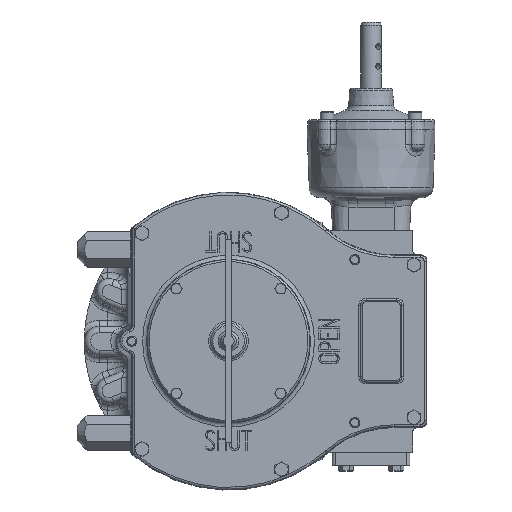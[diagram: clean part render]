
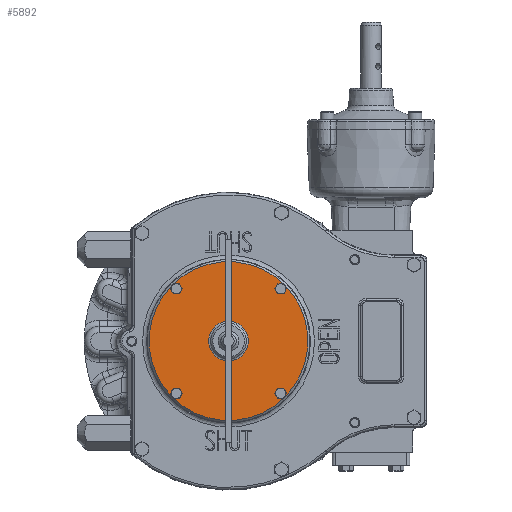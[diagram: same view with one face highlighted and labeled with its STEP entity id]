
A CAD part, top view. The second image highlights one B-rep face of the part: STEP entity #5892.
In plain terms, the highlighted planar face has unit normal (0, 0, 1).
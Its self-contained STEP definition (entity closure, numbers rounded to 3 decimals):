
#5892 = ADVANCED_FACE( '', ( #12998, #12999, #13000, #13001, #13002, #13003 ), #13004, .F. );
#12998 = FACE_BOUND( '', #42271, .T. );
#12999 = FACE_BOUND( '', #42272, .T. );
#13000 = FACE_BOUND( '', #42273, .T. );
#13001 = FACE_BOUND( '', #42274, .T. );
#13002 = FACE_BOUND( '', #42275, .T. );
#13003 = FACE_OUTER_BOUND( '', #42276, .T. );
#13004 = PLANE( '', #42277 );
#42271 = EDGE_LOOP( '', ( #68568 ) );
#42272 = EDGE_LOOP( '', ( #68569 ) );
#42273 = EDGE_LOOP( '', ( #68570 ) );
#42274 = EDGE_LOOP( '', ( #68571 ) );
#42275 = EDGE_LOOP( '', ( #68572 ) );
#42276 = EDGE_LOOP( '', ( #68573 ) );
#42277 = AXIS2_PLACEMENT_3D( '', #68574, #68575, #68576 );
#68568 = ORIENTED_EDGE( '', *, *, #81276, .T. );
#68569 = ORIENTED_EDGE( '', *, *, #83213, .T. );
#68570 = ORIENTED_EDGE( '', *, *, #83227, .T. );
#68571 = ORIENTED_EDGE( '', *, *, #83228, .T. );
#68572 = ORIENTED_EDGE( '', *, *, #83229, .T. );
#68573 = ORIENTED_EDGE( '', *, *, #79880, .T. );
#68574 = CARTESIAN_POINT( '', ( 56.569, 56.569, 125. ) );
#68575 = DIRECTION( '', ( 0., 0., -1. ) );
#68576 = DIRECTION( '', ( -0.707, 0.707, 0. ) );
#79880 = EDGE_CURVE( '', #90567, #90567, #90568, .F. );
#81276 = EDGE_CURVE( '', #92663, #92663, #92664, .T. );
#83213 = EDGE_CURVE( '', #95246, #95246, #95247, .T. );
#83227 = EDGE_CURVE( '', #95264, #95264, #95265, .T. );
#83228 = EDGE_CURVE( '', #95266, #95266, #95267, .T. );
#83229 = EDGE_CURVE( '', #95268, #95268, #95269, .T. );
#90567 = VERTEX_POINT( '', #114607 );
#90568 = CIRCLE( '', #114608, 78. );
#92663 = VERTEX_POINT( '', #122027 );
#92664 = CIRCLE( '', #122028, 5. );
#95246 = VERTEX_POINT( '', #129453 );
#95247 = CIRCLE( '', #129454, 5. );
#95264 = VERTEX_POINT( '', #129477 );
#95265 = CIRCLE( '', #129478, 5. );
#95266 = VERTEX_POINT( '', #129479 );
#95267 = CIRCLE( '', #129480, 5. );
#95268 = VERTEX_POINT( '', #129481 );
#95269 = CIRCLE( '', #129482, 19.5 );
#114607 = CARTESIAN_POINT( '', ( -55.154, 55.154, 125. ) );
#114608 = AXIS2_PLACEMENT_3D( '', #137983, #137984, #137985 );
#122027 = CARTESIAN_POINT( '', ( -56.265, -51.265, 125. ) );
#122028 = AXIS2_PLACEMENT_3D( '', #139521, #139522, #139523 );
#129453 = CARTESIAN_POINT( '', ( 46.265, 51.265, 125. ) );
#129454 = AXIS2_PLACEMENT_3D( '', #141598, #141599, #141600 );
#129477 = CARTESIAN_POINT( '', ( -56.265, 51.265, 125. ) );
#129478 = AXIS2_PLACEMENT_3D( '', #141613, #141614, #141615 );
#129479 = CARTESIAN_POINT( '', ( 46.265, -51.265, 125. ) );
#129480 = AXIS2_PLACEMENT_3D( '', #141616, #141617, #141618 );
#129481 = CARTESIAN_POINT( '', ( -13.789, 13.789, 125. ) );
#129482 = AXIS2_PLACEMENT_3D( '', #141619, #141620, #141621 );
#137983 = CARTESIAN_POINT( '', ( 0., 0., 125. ) );
#137984 = DIRECTION( '', ( 0., 0., -1. ) );
#137985 = DIRECTION( '', ( -0.707, 0.707, 0. ) );
#139521 = CARTESIAN_POINT( '', ( -51.265, -51.265, 125. ) );
#139522 = DIRECTION( '', ( 0., 0., -1. ) );
#139523 = DIRECTION( '', ( -1., 0., 0. ) );
#141598 = CARTESIAN_POINT( '', ( 51.265, 51.265, 125. ) );
#141599 = DIRECTION( '', ( 0., 0., -1. ) );
#141600 = DIRECTION( '', ( -1., 0., 0. ) );
#141613 = CARTESIAN_POINT( '', ( -51.265, 51.265, 125. ) );
#141614 = DIRECTION( '', ( 0., 0., -1. ) );
#141615 = DIRECTION( '', ( -1., 0., 0. ) );
#141616 = CARTESIAN_POINT( '', ( 51.265, -51.265, 125. ) );
#141617 = DIRECTION( '', ( 0., 0., -1. ) );
#141618 = DIRECTION( '', ( -1., 0., 0. ) );
#141619 = CARTESIAN_POINT( '', ( 0., 0., 125. ) );
#141620 = DIRECTION( '', ( 0., 0., -1. ) );
#141621 = DIRECTION( '', ( -0.707, 0.707, 0. ) );
